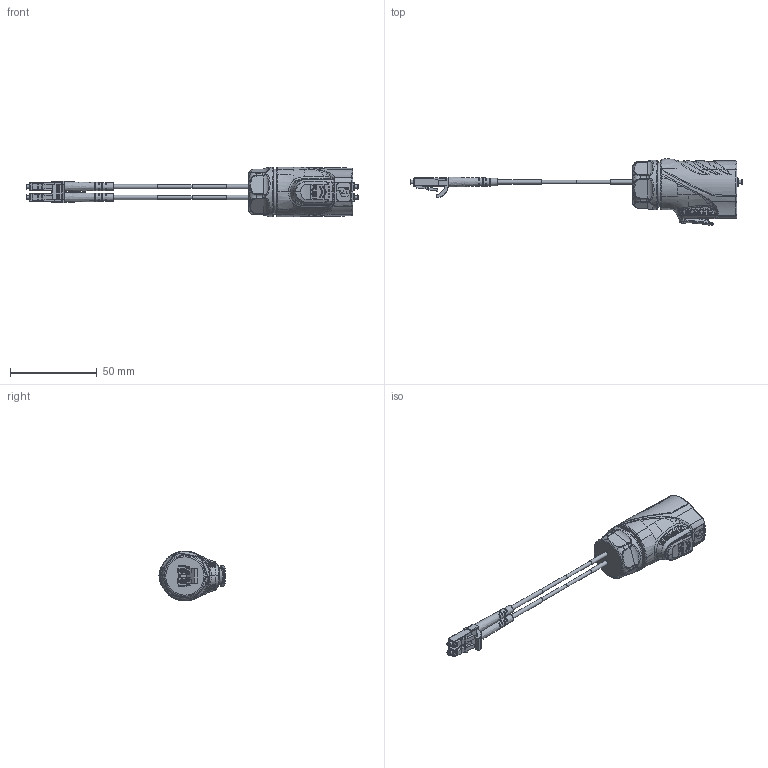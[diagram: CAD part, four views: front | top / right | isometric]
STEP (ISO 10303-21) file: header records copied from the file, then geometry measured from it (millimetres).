
FILE_DESCRIPTION (( 'STEP AP203' ), '1' );
FILE_NAME ('PLG20 单模双纤插头线束(常规）.STEP', '2025-03-21T00:52:06', ( '' ), ( '' ), 'SwSTEP 2.0', 'SolidWorks 2024', '' );
FILE_SCHEMA (( 'CONFIG_CONTROL_DESIGN' ));
Products named in the file (1): PLG20 单模双纤插头线束(常规）
Bounding box: 191.2 x 38.21 x 28.77 mm (x, y, z)
Surface area: 26763.4 mm2 (no closed solid volume)
Topology: 0 solids, 22 shells, 1909 faces, 5488 edges, 3592 vertices
Faces by surface type: plane 739, bspline 698, cylinder 311, torus 84, cone 43, sphere 34
Full cylindrical faces by diameter (mm): 1.2 x4, 1.3 x8, 1.6 x1, 2 x8, 2.5 x4, 2.65 x1, 3 x12, 17.6 x1, 19.4 x2, 21.911 x1, 22.033 x2, 28.6 x1
Entity records: 113784 total; most frequent: CARTESIAN_POINT 70879, ORIENTED_EDGE 10052, DIRECTION 6609, EDGE_CURVE 5326, VERTEX_POINT 3546, VECTOR 2337, LINE 2337, AXIS2_PLACEMENT_3D 2136
